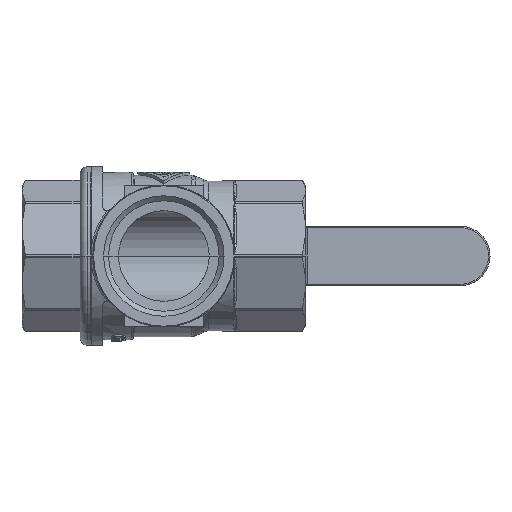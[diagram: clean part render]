
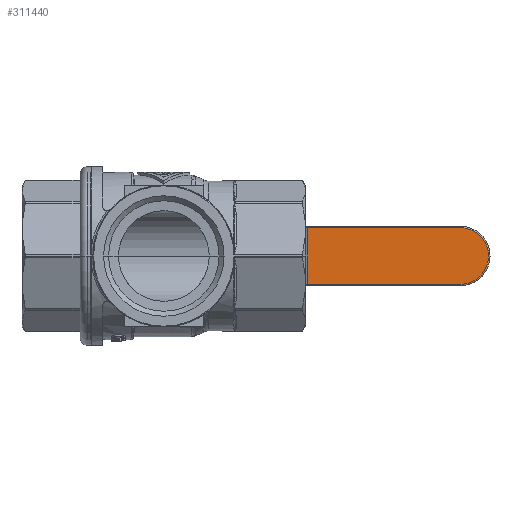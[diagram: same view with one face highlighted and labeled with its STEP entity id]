
A CAD part, front view. The second image highlights one B-rep face of the part: STEP entity #311440.
In plain terms, the highlighted planar face has unit normal (0, -1, 0).
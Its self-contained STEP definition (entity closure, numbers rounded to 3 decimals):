
#232810=CARTESIAN_POINT('',(-104.291,74.5,-10.));
#232820=VERTEX_POINT('',#232810);
#232870=CARTESIAN_POINT('',(0.,74.5,-10.))
;
#232880=DIRECTION('',(1.,0.,0.));
#232890=VECTOR('',#232880,1.);
#232900=LINE('',#232870,#232890);
#232910=CARTESIAN_POINT('',(-50.5,74.5,-10.));
#232920=VERTEX_POINT('',#232910);
#232930=EDGE_CURVE('',#232820,#232920,#232900,.T.);
#233520=CARTESIAN_POINT('',(0.,74.5,10.));
#233530=DIRECTION('',(-1.,0.,0.));
#233540=VECTOR('',#233530,1.);
#233550=LINE('',#233520,#233540);
#233560=CARTESIAN_POINT('',(-50.5,74.5,10.));
#233570=VERTEX_POINT('',#233560);
#233580=CARTESIAN_POINT('',(-104.709,74.5,10.));
#233590=VERTEX_POINT('',#233580);
#233600=EDGE_CURVE('',#233570,#233590,#233550,.T.);
#310360=CARTESIAN_POINT('',(-50.5,74.5,0.));
#310370=DIRECTION('',(0.,0.,1.));
#310380=VECTOR('',#310370,1.);
#310390=LINE('',#310360,#310380);
#310400=EDGE_CURVE('',#232920,#233570,#310390,.T.);
#311230=CARTESIAN_POINT('',(-114.,74.5,0.));
#311240=DIRECTION('',(0.,-1.,0.));
#311250=DIRECTION('',(1.,0.,0.));
#311260=AXIS2_PLACEMENT_3D('',#311230,#311240,#311250);
#311270=PLANE('',#311260);
#311280=ORIENTED_EDGE('',*,*,#232930,.T.);
#311290=CARTESIAN_POINT('',(-104.5,74.5,0.
));
#311300=DIRECTION('',(0.,-1.,0.));
#311310=DIRECTION('',(0.,0.,-1.));
#311320=AXIS2_PLACEMENT_3D('',#311290,#311300,#311310);
#311330=CIRCLE('',#311320,10.002);
#311340=CARTESIAN_POINT('',(-104.5,74.5,-10.002));
#311350=VERTEX_POINT('',#311340);
#311360=EDGE_CURVE('',#311350,#232820,#311330,.T.);
#311370=ORIENTED_EDGE('',*,*,#311360,.T.);
#311380=EDGE_CURVE('',#233590,#311350,#311330,.T.);
#311390=ORIENTED_EDGE('',*,*,#311380,.T.);
#311400=ORIENTED_EDGE('',*,*,#233600,.T.);
#311410=ORIENTED_EDGE('',*,*,#310400,.T.);
#311420=EDGE_LOOP('',(#311410,#311400,#311390,#311370,#311280));
#311430=FACE_OUTER_BOUND('',#311420,.T.);
#311440=ADVANCED_FACE('',(#311430),#311270,.T.);
